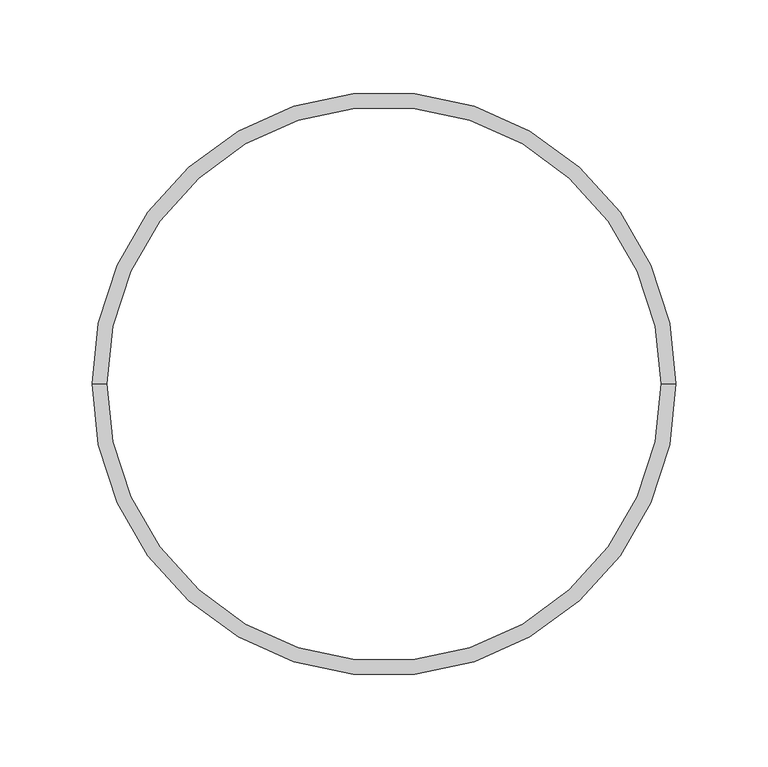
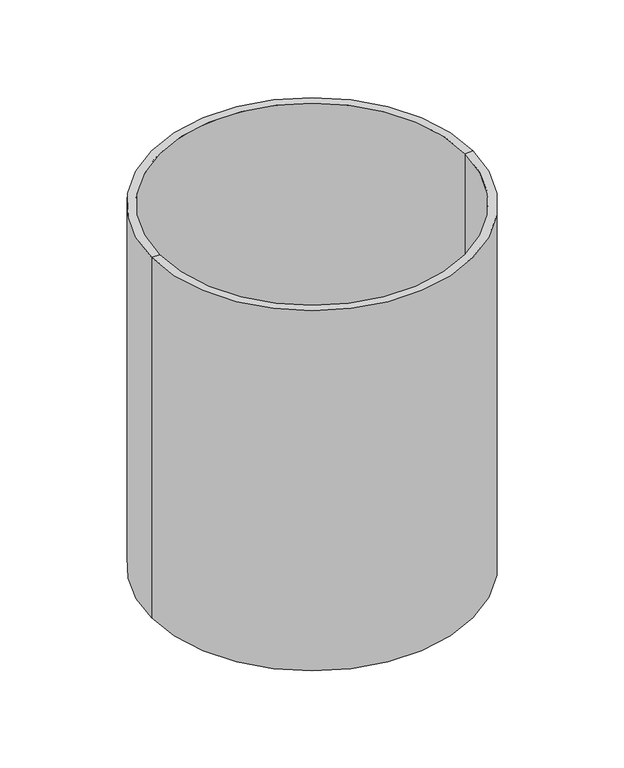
"""IFC4 building model written with IfcOpenShell, lengths in millimetres: pipe fitting geometry, Z_PIF_UN_Q-Bic_Plus_Telescopic_Pipe_PVC_Wavin_(nested) : DN315 L=375mm RAL8012."""

from ifc_helpers import new_model, si_unit, frame, origin, origin_with_axes, place, context, project, spatial, polyline, circle_curve, source, transform, mapped, element, save
from ifc_brep_helpers import plane_surface, cylinder_surface, revolved_surface, advanced_brep


def pipe_fitting_96394642(model_context):
    return source(origin(), model_context, "Body", "AdvancedBrep", [
        advanced_brep(
        [(-150.5, 0.0, 0.0), (150.5, 0.0, 0.0), (158.5, 0.0, 0.0), (-158.5, 0.0, 0.0), (-150.5, 0.0, -375.0), (150.5, 0.0, -375.0), (-158.5, 0.0, -375.0), (158.5, 0.0, -375.0)],
        [
            (0, 1, circle_curve(frame((0.0, 0.0, 0.0), z_axis=(0.0, 0.0, -1.0), x_axis=(1.0, 0.0, 0.0)), 150.5)),
            (1, 2),
            (2, 3, circle_curve(origin_with_axes(), 158.5)),
            (3, 0),
            (1, 0, circle_curve(frame((0.0, 0.0, 0.0), z_axis=(0.0, 0.0, -1.0), x_axis=(1.0, 0.0, 0.0)), 150.5)),
            (3, 2, circle_curve(origin_with_axes(), 158.5)),
            (4, 5, circle_curve(frame((0.0, 0.0, -375.0), z_axis=(0.0, 0.0, -1.0), x_axis=(1.0, 0.0, 0.0)), 150.5)),
            (5, 1),
            (0, 4),
            (5, 4, circle_curve(frame((0.0, 0.0, -375.0), z_axis=(0.0, 0.0, -1.0), x_axis=(1.0, 0.0, 0.0)), 150.5)),
            (6, 7, circle_curve(frame((0.0, 0.0, -375.0), z_axis=(0.0, 0.0, -1.0), x_axis=(1.0, 0.0, 0.0)), 158.5)),
            (7, 5),
            (4, 6),
            (7, 6, circle_curve(frame((0.0, 0.0, -375.0), z_axis=(0.0, 0.0, -1.0), x_axis=(1.0, 0.0, 0.0)), 158.5)),
            (2, 7),
            (6, 3),
        ],
        [
            plane_surface(origin_with_axes()),
            revolved_surface(polyline([(150.5, 0.0, 0.0), (150.5, 0.0, -375.0)]), (0.0, 0.0, 0.0), (0.0, 0.0, 1.0)),
            plane_surface(frame((0.0, 0.0, -375.0), z_axis=(0.0, 0.0, -1.0), x_axis=(1.0, 0.0, 0.0))),
            cylinder_surface(origin_with_axes(), 158.5),
        ],
        [
            (0, [[1, 2, 3, 4]]),
            (0, [[5, -4, 6, -2]]),
            (1, [[7, 8, -1, 9]]),
            (1, [[10, -9, -5, -8]]),
            (2, [[11, 12, -7, 13]]),
            (2, [[14, -13, -10, -12]]),
            (3, [[-3, 15, -11, 16]]),
            (3, [[-6, -16, -14, -15]]),
        ],
    ),
    ])


if __name__ == "__main__":
    model = new_model("IFC4")
    model_context = context("Model", 3, world=origin())
    ifc_project = project(units=[si_unit("LENGTHUNIT", "METRE", prefix="MILLI")], contexts=[model_context])
    site = spatial("IfcSite", under=ifc_project)
    building = spatial("IfcBuilding", under=site)
    placement = place(None, origin())
    pipe_fitting_shape = pipe_fitting_96394642(model_context)
    element("IfcPipeFitting", 1, ObjectType="Z_PIF_UN_Q-Bic_Plus_Telescopic_Pipe_PVC_Wavin_(nested) : DN315 L=375mm RAL8012", at=placement, inside=building, context=model_context, shape_type="MappedRepresentation", body=[
        mapped(pipe_fitting_shape, transform((0.0, 0.0, 0.0), x_axis=(1.0, 0.0, 0.0), y_axis=(0.0, 1.0, 0.0), z_axis=(0.0, 0.0, 1.0))),
    ])
    save(model, "model.ifc")
